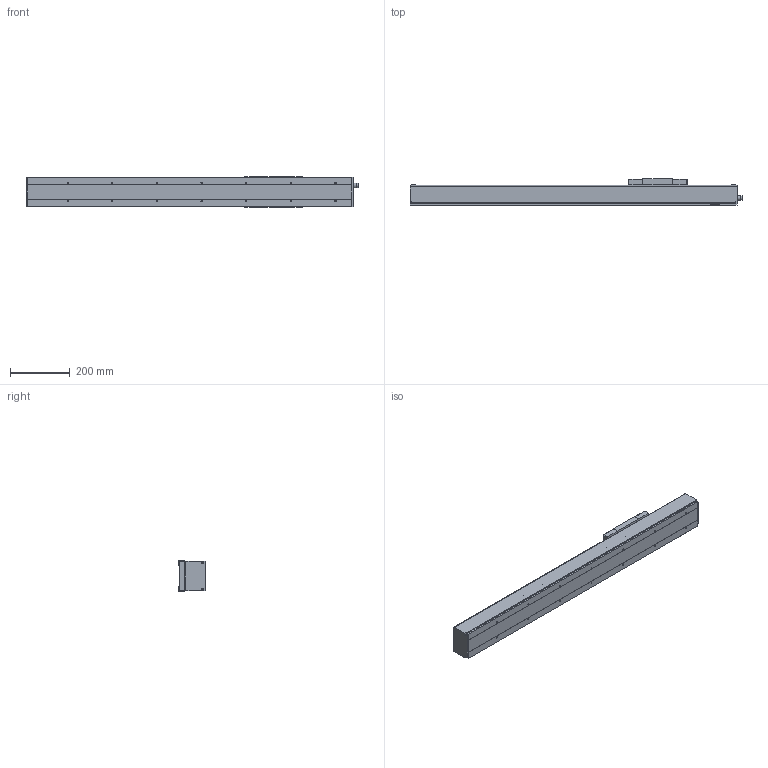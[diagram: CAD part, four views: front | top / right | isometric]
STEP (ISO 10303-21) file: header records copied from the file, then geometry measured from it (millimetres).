
FILE_DESCRIPTION(/* description */ (''),/* implementation_level */ '2;1');
FILE_NAME(/* name */ 'D:\混合母檔20191031\混和母檔\混和母檔\bin\Debug\Download\3D\KS100-10C-700AFI\KS100-10C-700AFI.stp',/* time_stamp */ '2019-11-04T14:48:42+08:00',/* author */ ('user'),/* organization */ (''),/* preprocessor_version */ 'ST-DEVELOPER v16.13',/* originating_system */ 'Autodesk Inventor 2018',/* authorisation */ '');
FILE_SCHEMA (('AUTOMOTIVE_DESIGN { 1 0 10303 214 3 1 1 }'));
Length unit declared in the file: millimetre
Products named in the file (3): KS100-10C-700AFI; KS100-FI; KS100-SL
Assembly tree (2 placements, depth 2):
  KS100-10C-700AFI
    KS100-FI
    KS100-SL
Bounding box: 1115.5 x 89 x 102.4 mm (x, y, z)
Volume: 2601556 mm3; surface area: 843003.7 mm2
Topology: 3 solids, 7 shells, 654 faces, 1804 edges, 1188 vertices
Faces by surface type: plane 345, bspline 136, cylinder 78, cone 75, torus 16, sphere 4
Full cylindrical faces by diameter (mm): 2.459 x4, 3.242 x4, 3.571 x8, 4 x4, 4.134 x14, 4.3 x4, 6 x7, 8 x4, 8.4 x4, 14 x1, 15.538 x1, 28 x1, 30 x1
Entity records: 24724 total; most frequent: CARTESIAN_POINT 9354, ORIENTED_EDGE 3316, DIRECTION 2691, EDGE_CURVE 1658, VERTEX_POINT 1142, LINE 1059, VECTOR 1059, EDGE_LOOP 826
